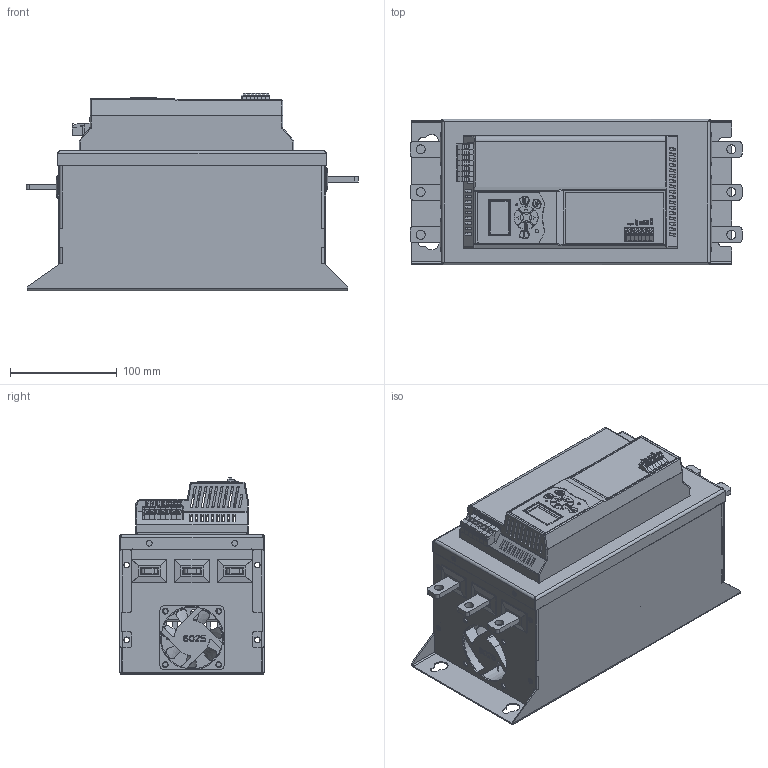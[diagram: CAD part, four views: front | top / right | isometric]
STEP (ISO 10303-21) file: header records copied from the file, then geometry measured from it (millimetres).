
FILE_DESCRIPTION (( 'STEP AP203' ), '1' );
FILE_NAME ('SBIM-55_110-04.STEP', '2025-02-24T06:28:06', ( '' ), ( '' ), 'SwSTEP 2.0', 'SolidWorks 2021', '' );
FILE_SCHEMA (( 'CONFIG_CONTROL_DESIGN' ));
Length unit declared in the file: millimetre
Products named in the file (36): Ïàíåëü óïðàâëåíèÿ; Ïëàòà ïèòàíèÿ 360-18-37-0001; Øèíà âûâîäíàÿ; Êîðïóñ âåíòèëÿòîðà 6025; Êëåììíàÿ êîëîäêà 3D5_60001; ﾏ褊鶴 1D5-000001; Îñíîâà ïëàòû 360-18-37-000_1-132470; 扱闀罻 6-6-80001; Ðàìà îñíîâàíàÿ 8800-45-75-003; Ëèöåâàÿ ôàëüøïàíåëü 18-37; ﾄ濵 8800-45-75-002; Êîííåêòîð 2540001; Êîííåêòîð 254-0001; Êðûøêà êàðêàñà 8800-45-75-004; Êíîïêà ñòîïà; Êðûøêà 8800-45-75-001; Óçåë ñèëîâîé 45-75; Êðûëü÷àòêà âåíòèëÿòîðà 6025; RJ45; 抔樦憵 3D-00001; Êëåììíàÿ êîëîäêà 8800-508 Ï_7P; SBIM-55_110-04; Èçîëÿòîð MN-45-75; Îñíîâà ïëàòû 8800-18-37-PCB-2; Êíîïêà ïóñêà; Ïëàòà ïàíåëè óïðàëåíèÿ 8800-18-37-PCB-200; Äèñïëåé 8800-11 12864COG; Øèíà ââîäíàÿ 8800-45-75-0008; 抔樦憵 PL2D5B-5-508-05; 抔樦憵 3D5-00001; 扻豵鵨 膰臇樏襜譇 2540001; Êàðêàñ êîðïóñà 8800-45-75-000; Ëèöåâàÿ ïàíåëü; Íîæêà êîííåêòîðà 2540001; Âåíòèëÿòîð 6025; Âåðõíÿÿ ÷àñòü êîðïóñà 18-37
Assembly tree (81 placements, depth 4):
  SBIM-55_110-04
    Êàðêàñ êîðïóñà 8800-45-75-000
    Óçåë ñèëîâîé 45-75
      Øèíà âûâîäíàÿ  x3
      Øèíà ââîäíàÿ 8800-45-75-0008  x3
    Ðàìà îñíîâàíàÿ 8800-45-75-003
    ﾄ濵 8800-45-75-002
    Êðûøêà 8800-45-75-001
    Êðûøêà êàðêàñà 8800-45-75-004
    Âåðõíÿÿ ÷àñòü êîðïóñà 18-37
    Èçîëÿòîð MN-45-75  x6
    Âåíòèëÿòîð 6025
      Êîðïóñ âåíòèëÿòîðà 6025
      Êðûëü÷àòêà âåíòèëÿòîðà 6025
    Ïàíåëü óïðàâëåíèÿ
      Ëèöåâàÿ ïàíåëü
      Êíîïêà ñòîïà
      Êíîïêà ïóñêà
    Ïëàòà ïàíåëè óïðàëåíèÿ 8800-18-37-PCB-200
      Îñíîâà ïëàòû 8800-18-37-PCB-2
      Äèñïëåé 8800-11 12864COG
      扱闀罻 6-6-80001  x8
      Êëåììíàÿ êîëîäêà 3D5_60001
        抔樦憵 3D5-00001  x4
        抔樦憵 3D-00001  x3
        ﾏ褊鶴 1D5-000001
      RJ45
      Êîííåêòîð 254-0001  x10
    Ïëàòà ïèòàíèÿ 360-18-37-0001
      Îñíîâà ïëàòû 360-18-37-000_1-132470
      Êëåììíàÿ êîëîäêà 8800-508 Ï_7P
      Êîííåêòîð 2540001  x10
        扻豵鵨 膰臇樏襜譇 2540001
        Íîæêà êîííåêòîðà 2540001
    抔樦憵 PL2D5B-5-508-05  x7
    Ëèöåâàÿ ôàëüøïàíåëü 18-37
Bounding box: 310.72 x 136 x 184.7 mm (x, y, z)
Volume: 486394.3 mm3; surface area: 621701.8 mm2
Topology: 92 solids, 92 shells, 6159 faces, 15842 edges, 10076 vertices
Faces by surface type: plane 3733, cylinder 1696, bspline 647, torus 47, cone 36
Entity records: 133220 total; most frequent: CARTESIAN_POINT 42528, ORIENTED_EDGE 18446, DIRECTION 16212, EDGE_CURVE 9223, VECTOR 6704, LINE 6704, VERTEX_POINT 5996, AXIS2_PLACEMENT_3D 4754
